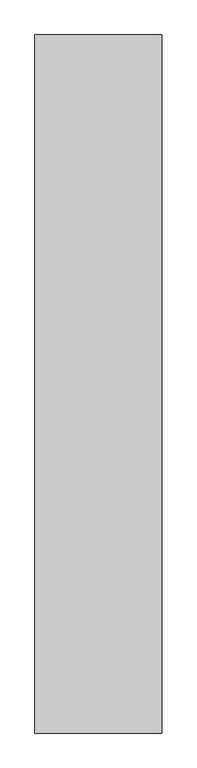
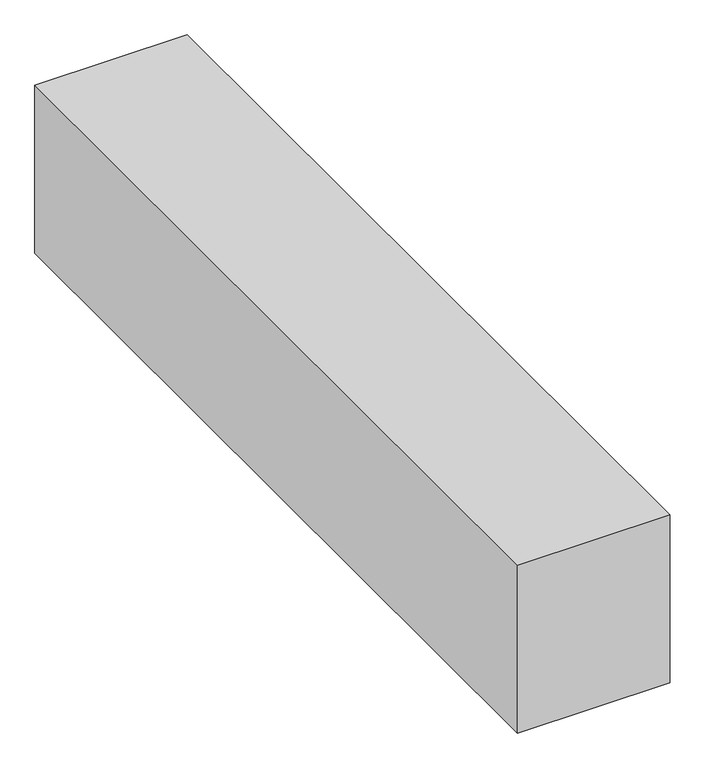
"""IFC4 building model written with IfcOpenShell, lengths in millimetres: proxy geometry, 制気口ボックス : 制気口ボックス."""

import ifcopenshell
import ifcopenshell.guid

model = None  # the IFC model being written
_history = None  # IfcOwnerHistory: only IFC2X3 demands one
_inside = {}  # id of a spatial element -> (the spatial element, [elements in it])
_under = {}  # id of a project, library or spatial element -> (it, [spatial elements below it])
_declared = {}  # id of a project -> (the project, [libraries it declares])
_typed = {}  # id of a type object -> (the type object, [elements of that type])
_made_of = {}  # id of a material, layer set ... -> (it, [elements and type objects made of it])


def new_model(schema):
    """Start an empty IFC model of exactly this schema.

    Asked for "IFC4X3", IfcOpenShell would pick the latest addendum, in which some entities
    have other attributes; the version numbers below select the first issue.
    IFC2X3 requires an IfcOwnerHistory on every rooted entity: one is made here for all.
    """
    global model, _history
    if schema == "IFC4X3":
        model = ifcopenshell.file(schema_version=(4, 3, 0, 0))
    else:
        model = ifcopenshell.file(schema=schema)
    _inside.clear()
    _under.clear()
    _declared.clear()
    _typed.clear()
    _made_of.clear()
    _history = None
    if model.schema == "IFC2X3":
        org = make("IfcOrganization", Name="unknown")
        user = make(
            "IfcPersonAndOrganization",
            ThePerson=make("IfcPerson", FamilyName="unknown"),
            TheOrganization=org,
        )
        app = make(
            "IfcApplication",
            ApplicationDeveloper=org,
            Version="unknown",
            ApplicationFullName="unknown",
            ApplicationIdentifier="unknown",
        )
        _history = make(
            "IfcOwnerHistory",
            OwningUser=user,
            OwningApplication=app,
            ChangeAction="ADDED",
            CreationDate=0,
        )
    return model


def make(cls, **values):
    """One entity of the class cls with the attributes given. An attribute that is None is left unset."""
    return model.create_entity(
        cls, **{name: value for name, value in values.items() if value is not None}
    )


def rooted(cls, **values):
    """An entity with a GlobalId (a new one), such as an element, a storey or a relation."""
    return make(cls, GlobalId=ifcopenshell.guid.new(), OwnerHistory=_history, **values)


def si_unit(unit_type, name, prefix=None):
    """IfcSIUnit, for example si_unit("LENGTHUNIT", "METRE", prefix="MILLI")."""
    return make("IfcSIUnit", UnitType=unit_type, Prefix=prefix, Name=name)


def assignment(units):
    """IfcUnitAssignment: the units of a project."""
    return None if units is None else make("IfcUnitAssignment", Units=units)


def point(xyz):
    """IfcCartesianPoint."""
    return None if xyz is None else make("IfcCartesianPoint", Coordinates=xyz)


def direction(xyz):
    """IfcDirection."""
    return None if xyz is None else make("IfcDirection", DirectionRatios=xyz)


def frame(location, z_axis=None, x_axis=None):
    """IfcAxis2Placement3D, a coordinate frame: its origin and axes. An axis left out is left unset."""
    return make(
        "IfcAxis2Placement3D",
        Location=point(location),
        Axis=direction(z_axis),
        RefDirection=direction(x_axis),
    )


def origin():
    """The frame at (0, 0, 0) with its axes left unset."""
    return frame((0.0, 0.0, 0.0))


def place(relative_to, where):
    """IfcLocalPlacement: puts the frame where relative to a parent placement (None: the world)."""
    return make(
        "IfcLocalPlacement", PlacementRelTo=relative_to, RelativePlacement=where
    )


def context(
    kind, dimensions, precision=None, world=None, true_north=None, identifier=None
):
    """IfcGeometricRepresentationContext, for example the 3D "Model" context."""
    return make(
        "IfcGeometricRepresentationContext",
        ContextIdentifier=identifier,
        ContextType=kind,
        CoordinateSpaceDimension=dimensions,
        Precision=precision,
        WorldCoordinateSystem=world,
        TrueNorth=true_north,
    )


def project(units=None, contexts=None):
    """IfcProject with its units and contexts."""
    return rooted(
        "IfcProject",
        Name="project",
        RepresentationContexts=contexts,
        UnitsInContext=assignment(units),
    )


def spatial(cls, under=None, at=None, **own):
    """A site, building, storey or space (cls), placed at a placement, below another one or the project."""
    s = rooted(cls, ObjectPlacement=at, **own)
    if under is not None:
        _under.setdefault(under.id(), (under, []))[1].append(s)
    return s


def polyline(points):
    """IfcPolyline through the points."""
    return make("IfcPolyline", Points=[point(p) for p in points])


def outline(outer, holes=None, kind="AREA"):
    """IfcArbitraryClosedProfileDef: a profile drawn as a closed curve; with holes, ...WithVoids."""
    if holes is None:
        return make("IfcArbitraryClosedProfileDef", ProfileType=kind, OuterCurve=outer)
    return make(
        "IfcArbitraryProfileDefWithVoids",
        ProfileType=kind,
        OuterCurve=outer,
        InnerCurves=holes,
    )


def extrude(swept, where, along, depth):
    """IfcExtrudedAreaSolid: the profile swept, set in the frame where, extruded along a direction by depth."""
    return make(
        "IfcExtrudedAreaSolid",
        SweptArea=swept,
        Position=where,
        ExtrudedDirection=direction(along),
        Depth=depth,
    )


def shape(context_of_items, identifier, shape_type, items):
    """IfcShapeRepresentation: the items that make up one representation, for example the "Body"."""
    return make(
        "IfcShapeRepresentation",
        ContextOfItems=context_of_items,
        RepresentationIdentifier=identifier,
        RepresentationType=shape_type,
        Items=items,
    )


def source(mapping_origin, context_of_items, identifier, shape_type, items):
    """IfcRepresentationMap: a shape defined once, which mapped items show again and again."""
    return make(
        "IfcRepresentationMap",
        MappingOrigin=mapping_origin,
        MappedRepresentation=shape(context_of_items, identifier, shape_type, items),
    )


def transform(
    local_origin,
    x_axis=None,
    y_axis=None,
    z_axis=None,
    scale=None,
    scale2=None,
    scale3=None,
    uniform=True,
):
    """IfcCartesianTransformationOperator3D, or its non-uniform kind. x_axis, y_axis, z_axis: its Axis1, 2, 3."""
    if uniform:
        return make(
            "IfcCartesianTransformationOperator3D",
            Axis1=direction(x_axis),
            Axis2=direction(y_axis),
            LocalOrigin=point(local_origin),
            Scale=scale,
            Axis3=direction(z_axis),
        )
    return make(
        "IfcCartesianTransformationOperator3DnonUniform",
        Axis1=direction(x_axis),
        Axis2=direction(y_axis),
        LocalOrigin=point(local_origin),
        Scale=scale,
        Axis3=direction(z_axis),
        Scale2=scale2,
        Scale3=scale3,
    )


def mapped(mapping_source, mapping_target):
    """IfcMappedItem: shows the shape of a source again, moved by a transform."""
    return make(
        "IfcMappedItem", MappingSource=mapping_source, MappingTarget=mapping_target
    )


def made_of(thing, what):
    """Note that an element or type object is made of a material, layer set ...; save() writes the relation."""
    if what is not None:
        _made_of.setdefault(what.id(), (what, []))[1].append(thing)
    return thing


def element(
    cls,
    number,
    at=None,
    inside=None,
    cuts=None,
    type_object=None,
    material=None,
    context=None,
    identifier="Body",
    shape_type=None,
    held_by="IfcProductDefinitionShape",
    body=None,
    shapes=None,
    **own,
):
    """One element of the class cls, such as IfcWall. Its Tag is "e" and its number.

    at: its placement. inside: the storey or other place that contains it. cuts: it is an
    opening in that element (IfcRelVoidsElement). A single representation is given by context,
    identifier, shape_type and body (its items); several are given by shapes. held_by: the class
    of the entity that holds the representations. save() writes the other relations.
    """
    e = rooted(cls, Tag="e%d" % number, ObjectPlacement=at, **own)
    if body is not None:
        shapes = [shape(context, identifier, shape_type, body)]
    if shapes is not None:
        e.Representation = make(held_by, Representations=shapes)
    if inside is not None:
        _inside.setdefault(inside.id(), (inside, []))[1].append(e)
    if cuts is not None:
        rooted(
            "IfcRelVoidsElement", RelatingBuildingElement=cuts, RelatedOpeningElement=e
        )
    if type_object is not None:
        _typed.setdefault(type_object.id(), (type_object, []))[1].append(e)
    return made_of(e, material)


def aggregate(whole, parts):
    """IfcRelAggregates: a whole, such as a stair, and the parts it consists of."""
    return rooted("IfcRelAggregates", RelatingObject=whole, RelatedObjects=parts)


def save(model, path):
    """Write the relations noted so far, then the file.

    IfcRelAggregates (storeys below a building ...), IfcRelContainedInSpatialStructure (elements
    in a storey), IfcRelDefinesByType, IfcRelAssociatesMaterial and IfcRelDeclares: one each for
    every whole, place, type object, material and project.
    """
    for whole, parts in _under.values():
        aggregate(whole, parts)
    for where, things in _inside.values():
        rooted(
            "IfcRelContainedInSpatialStructure",
            RelatedElements=things,
            RelatingStructure=where,
        )
    for kind, things in _typed.values():
        rooted("IfcRelDefinesByType", RelatedObjects=things, RelatingType=kind)
    for what, things in _made_of.values():
        rooted("IfcRelAssociatesMaterial", RelatedObjects=things, RelatingMaterial=what)
    for by, libraries in _declared.values():
        rooted("IfcRelDeclares", RelatingContext=by, RelatedDefinitions=libraries)
    model.write(path)


def mechanical_equipment_746b2142(model_context):
    return source(origin(), model_context, "Body", "SweptSolid", [
        extrude(outline(polyline([(150.0, 825.0), (150.0, -825.0), (-150.0, -825.0), (-150.0, 825.0), (150.0, 825.0)])), frame((0.0, 0.0, -175.0), z_axis=(0.0, 0.0, 1.0), x_axis=(1.0, 0.0, 0.0)), (0.0, 0.0, 1.0), 350.0),
    ])


if __name__ == "__main__":
    model = new_model("IFC4")
    model_context = context("Model", 3, world=origin())
    ifc_project = project(units=[si_unit("LENGTHUNIT", "METRE", prefix="MILLI")], contexts=[model_context])
    site = spatial("IfcSite", under=ifc_project)
    building = spatial("IfcBuilding", under=site)
    placement = place(None, origin())
    mechanical_equipment_shape = mechanical_equipment_746b2142(model_context)
    element("IfcBuildingElementProxy", 1, Name="制気口ボックス : 制気口ボックス", ObjectType="制気口ボックス : 制気口ボックス", at=placement, inside=building, context=model_context, shape_type="MappedRepresentation", body=[
        mapped(mechanical_equipment_shape, transform((0.0, 0.0, 0.0), x_axis=(1.0, 0.0, 0.0), y_axis=(0.0, 1.0, 0.0), z_axis=(0.0, 0.0, 1.0))),
    ])
    save(model, "model.ifc")
